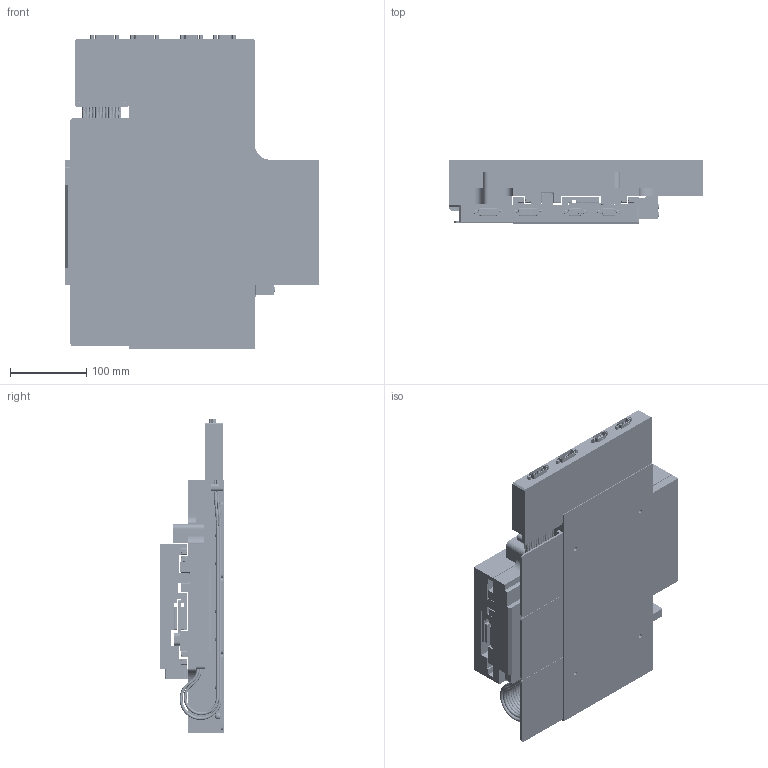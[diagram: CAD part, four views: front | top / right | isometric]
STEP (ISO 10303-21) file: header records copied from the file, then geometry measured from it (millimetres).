
FILE_DESCRIPTION (( 'STEP AP214' ), '1' );
FILE_NAME ('LXY-150-EXPORT REV 1.STEP', '2026-06-19T15:47:29', ( 'lab' ), ( '' ), 'SwSTEP 2.0', 'SolidWorks 2018', '' );
FILE_SCHEMA (( 'AUTOMOTIVE_DESIGN' ));
Length unit declared in the file: millimetre
Products named in the file (18): 1000010_file_export31; 1000005_file_export28; 1000002_file_export5; LXY-150-EXPORT REV 1; 1000012_file_export42; 1000001_file_export2; 1000003_file_export3; 1000011_file_export27; 1000017_file_export46; 1000009_file_export18; 1000016_file_export45; 1000014_file_export43; 1000007_file_export29; 1000004_file_export22; 1000015_file_export44; 1000006_file_export30; 1000008_file_export25; 1000013_file_export32
Assembly tree (47 placements, depth 2):
  LXY-150-EXPORT REV 1
    1000001_file_export2
    1000002_file_export5
    1000003_file_export3
    1000004_file_export22  x8
    1000005_file_export28  x2
    1000006_file_export30  x4
    1000007_file_export29  x3
    1000008_file_export25  x6
    1000009_file_export18  x2
    1000010_file_export31
    1000011_file_export27  x2
    1000013_file_export32  x2
    1000012_file_export42
    1000014_file_export43
    1000015_file_export44  x8
    1000016_file_export45  x2
    1000017_file_export46  x2
Bounding box: 332 x 83 x 412.2 mm (x, y, z)
Volume: 5190068.4 mm3; surface area: 1281402.9 mm2
Topology: 240 solids, 296 shells, 10130 faces, 23903 edges, 13637 vertices
Faces by surface type: plane 4047, cylinder 3670, cone 718, sphere 704, bspline 502, torus 489
Entity records: 187541 total; most frequent: CARTESIAN_POINT 46890, DIRECTION 25737, ORIENTED_EDGE 23100, EDGE_CURVE 11550, AXIS2_PLACEMENT_3D 10051, VERTEX_POINT 6938, LINE 5635, VECTOR 5635
